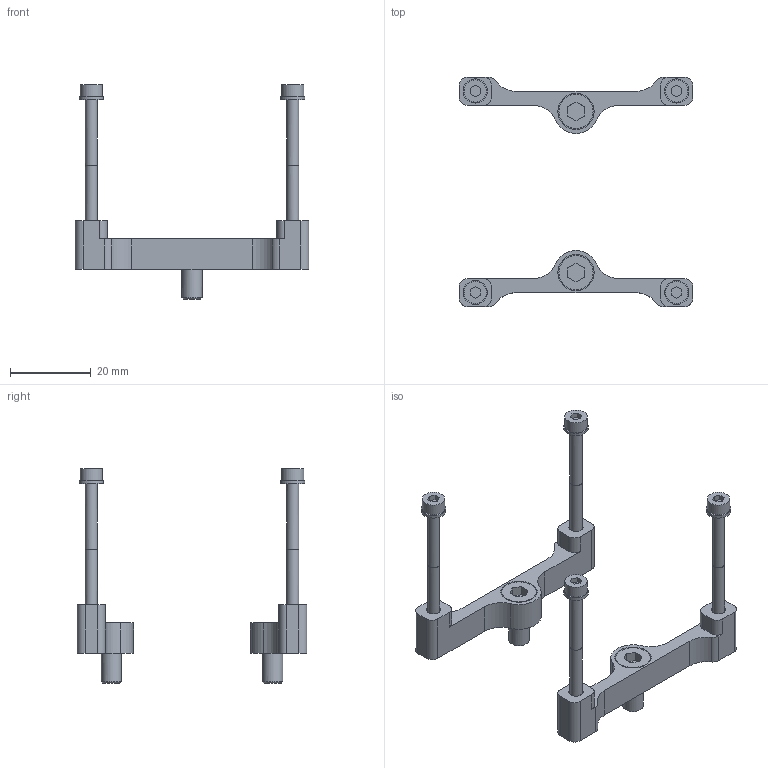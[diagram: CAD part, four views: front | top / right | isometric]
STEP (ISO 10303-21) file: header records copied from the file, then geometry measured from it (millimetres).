
FILE_DESCRIPTION( ( 'STEP AP214' ), '1' );
FILE_NAME( 'U:/Etudes/Top Solid/BIBLIO 3D AVM/STEP/N_ELECTRIQUE/Linéaires/Add2009/8319193.step', '2009-01-06T10:54:44', ( ' ' ), ( ' ' ), 'XStep 1.0', ' ', ' ' );
FILE_SCHEMA( ( 'automotive_design' ) );
Length unit declared in the file: millimetre
Products named in the file (10): 1; 2; 3; 4; 5; 6; 7; 8; 9; 10
Bounding box: 58 x 57 x 53.3 mm (x, y, z)
Volume: 7260.5 mm3; surface area: 7263 mm2
Topology: 10 solids, 10 shells, 186 faces, 416 edges, 272 vertices
Faces by surface type: plane 100, cylinder 72, cone 14
Full cylindrical faces by diameter (mm): 2.459 x8, 3 x8, 3.25 x4, 3.5 x4, 5 x4, 5.2 x2, 5.5 x4, 6 x4, 8.5 x2, 9 x2
Entity records: 6639 total; most frequent: CARTESIAN_POINT 1006, DIRECTION 872, ORIENTED_EDGE 696, EDGE_CURVE 348, AXIS2_PLACEMENT_3D 334, EDGE_LOOP 272, VERTEX_POINT 264, FACE_OUTER_BOUND 228
